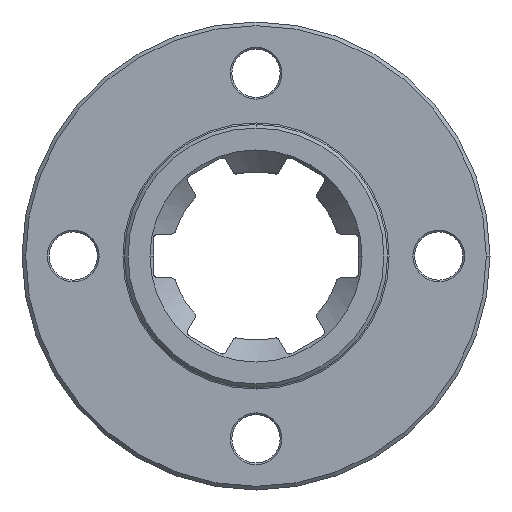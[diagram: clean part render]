
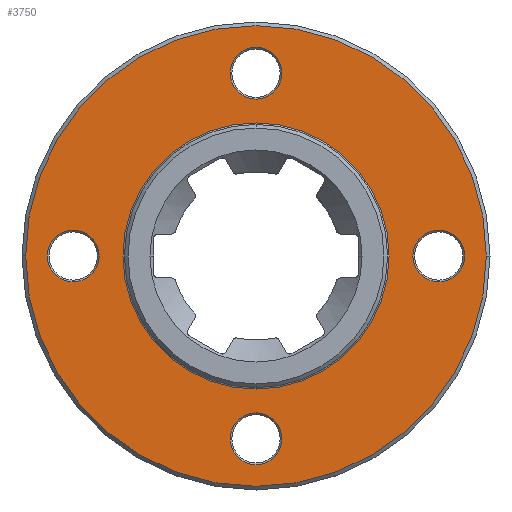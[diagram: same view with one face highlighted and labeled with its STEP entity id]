
A CAD part, left-side view. The second image highlights one B-rep face of the part: STEP entity #3750.
In plain terms, the highlighted planar face has unit normal (-1, 0, 0).
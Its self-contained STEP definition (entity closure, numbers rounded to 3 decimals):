
#1843=CARTESIAN_POINT('',(0.,0.,
0.));
#1844=DIRECTION('',(-1.,0.,0.));
#1845=DIRECTION('',(0.,-1.,0.));
#1846=AXIS2_PLACEMENT_3D('',#1843,#1844,#1845);
#1851=CARTESIAN_POINT('',(0.,0.,
0.));
#1852=DIRECTION('',(-1.,0.,0.));
#1853=DIRECTION('',(0.,1.,0.));
#1854=AXIS2_PLACEMENT_3D('',#1851,#1852,#1853);
#1859=CARTESIAN_POINT('',(0.,0.,0.));
#1860=DIRECTION('',(1.,0.,0.));
#1861=DIRECTION('',(0.,0.,1.));
#1862=AXIS2_PLACEMENT_3D('',#1859,#1860,#1861);
#1867=CARTESIAN_POINT('',(0.,0.,0.));
#1868=DIRECTION('',(1.,0.,0.));
#1869=DIRECTION('',(0.,0.,-1.));
#1870=AXIS2_PLACEMENT_3D('',#1867,#1868,#1869);
#1875=CARTESIAN_POINT('',(0.,0.,-25.));
#1876=DIRECTION('',(1.,0.,0.));
#1877=DIRECTION('',(0.,1.,0.));
#1878=AXIS2_PLACEMENT_3D('',#1875,#1876,#1877);
#1883=CARTESIAN_POINT('',(0.,0.,-25.));
#1884=DIRECTION('',(1.,0.,0.));
#1885=DIRECTION('',(0.,-1.,0.));
#1886=AXIS2_PLACEMENT_3D('',#1883,#1884,#1885);
#1891=CARTESIAN_POINT('',(0.,25.,0.));
#1892=DIRECTION('',(1.,0.,0.));
#1893=DIRECTION('',(0.,1.,0.));
#1894=AXIS2_PLACEMENT_3D('',#1891,#1892,#1893);
#1899=CARTESIAN_POINT('',(0.,25.,0.));
#1900=DIRECTION('',(1.,0.,0.));
#1901=DIRECTION('',(0.,-1.,0.));
#1902=AXIS2_PLACEMENT_3D('',#1899,#1900,#1901);
#1907=CARTESIAN_POINT('',(0.,0.,25.));
#1908=DIRECTION('',(1.,0.,0.));
#1909=DIRECTION('',(0.,1.,0.));
#1910=AXIS2_PLACEMENT_3D('',#1907,#1908,#1909);
#1915=CARTESIAN_POINT('',(0.,0.,25.));
#1916=DIRECTION('',(1.,0.,0.));
#1917=DIRECTION('',(0.,-1.,0.));
#1918=AXIS2_PLACEMENT_3D('',#1915,#1916,#1917);
#1923=CARTESIAN_POINT('',(0.,-25.,0.));
#1924=DIRECTION('',(1.,0.,0.));
#1925=DIRECTION('',(0.,1.,0.));
#1926=AXIS2_PLACEMENT_3D('',#1923,#1924,#1925);
#1931=CARTESIAN_POINT('',(0.,-25.,0.));
#1932=DIRECTION('',(1.,0.,0.));
#1933=DIRECTION('',(0.,-1.,0.));
#1934=AXIS2_PLACEMENT_3D('',#1931,#1932,#1933);
#2377=CARTESIAN_POINT('',(0.,-31.5,
0.));
#2378=CARTESIAN_POINT('',(0.,31.5,
0.));
#2379=VERTEX_POINT('',#2377);
#2380=VERTEX_POINT('',#2378);
#2413=CARTESIAN_POINT('',(0.,0.,18.2));
#2414=CARTESIAN_POINT('',(0.,0.,-18.2));
#2415=VERTEX_POINT('',#2413);
#2416=VERTEX_POINT('',#2414);
#2425=CARTESIAN_POINT('',(0.,3.55,-25.));
#2426=CARTESIAN_POINT('',(0.,-3.55,-25.));
#2427=VERTEX_POINT('',#2425);
#2428=VERTEX_POINT('',#2426);
#2441=CARTESIAN_POINT('',(0.,28.55,0.));
#2442=CARTESIAN_POINT('',(0.,21.45,0.));
#2443=VERTEX_POINT('',#2441);
#2444=VERTEX_POINT('',#2442);
#2457=CARTESIAN_POINT('',(0.,3.55,25.));
#2458=CARTESIAN_POINT('',(0.,-3.55,25.));
#2459=VERTEX_POINT('',#2457);
#2460=VERTEX_POINT('',#2458);
#2473=CARTESIAN_POINT('',(0.,-21.45,0.));
#2474=CARTESIAN_POINT('',(0.,-28.55,0.));
#2475=VERTEX_POINT('',#2473);
#2476=VERTEX_POINT('',#2474);
#3710=CARTESIAN_POINT('',(0.,0.,0.));
#3711=DIRECTION('',(-1.,0.,0.));
#3712=DIRECTION('',(0.,1.,0.));
#3713=AXIS2_PLACEMENT_3D('',#3710,#3711,#3712);
#3714=PLANE('',#3713);
#3716=ORIENTED_EDGE('',*,*,#3715,.F.);
#3717=ORIENTED_EDGE('',*,*,#3700,.F.);
#3718=EDGE_LOOP('',(#3716,#3717));
#3719=FACE_OUTER_BOUND('',#3718,.F.);
#3721=ORIENTED_EDGE('',*,*,#3720,.F.);
#3723=ORIENTED_EDGE('',*,*,#3722,.F.);
#3724=EDGE_LOOP('',(#3721,#3723));
#3725=FACE_BOUND('',#3724,.F.);
#3727=ORIENTED_EDGE('',*,*,#3726,.F.);
#3729=ORIENTED_EDGE('',*,*,#3728,.F.);
#3730=EDGE_LOOP('',(#3727,#3729));
#3731=FACE_BOUND('',#3730,.F.);
#3733=ORIENTED_EDGE('',*,*,#3732,.F.);
#3735=ORIENTED_EDGE('',*,*,#3734,.F.);
#3736=EDGE_LOOP('',(#3733,#3735));
#3737=FACE_BOUND('',#3736,.F.);
#3739=ORIENTED_EDGE('',*,*,#3738,.F.);
#3741=ORIENTED_EDGE('',*,*,#3740,.F.);
#3742=EDGE_LOOP('',(#3739,#3741));
#3743=FACE_BOUND('',#3742,.F.);
#3745=ORIENTED_EDGE('',*,*,#3744,.F.);
#3747=ORIENTED_EDGE('',*,*,#3746,.F.);
#3748=EDGE_LOOP('',(#3745,#3747));
#3749=FACE_BOUND('',#3748,.F.);
#3750=ADVANCED_FACE('',(#3719,#3725,#3731,#3737,#3743,#3749),#3714,.T.);
#1847=CIRCLE('',#1846,31.5);
#1855=CIRCLE('',#1854,31.5);
#1863=CIRCLE('',#1862,18.2);
#1871=CIRCLE('',#1870,18.2);
#1879=CIRCLE('',#1878,3.55);
#1887=CIRCLE('',#1886,3.55);
#1895=CIRCLE('',#1894,3.55);
#1903=CIRCLE('',#1902,3.55);
#1911=CIRCLE('',#1910,3.55);
#1919=CIRCLE('',#1918,3.55);
#1927=CIRCLE('',#1926,3.55);
#1935=CIRCLE('',#1934,3.55);
#3700=EDGE_CURVE('',#2380,#2379,#1855,.T.);
#3715=EDGE_CURVE('',#2379,#2380,#1847,.T.);
#3720=EDGE_CURVE('',#2415,#2416,#1863,.T.);
#3722=EDGE_CURVE('',#2416,#2415,#1871,.T.);
#3726=EDGE_CURVE('',#2427,#2428,#1879,.T.);
#3728=EDGE_CURVE('',#2428,#2427,#1887,.T.);
#3732=EDGE_CURVE('',#2443,#2444,#1895,.T.);
#3734=EDGE_CURVE('',#2444,#2443,#1903,.T.);
#3738=EDGE_CURVE('',#2459,#2460,#1911,.T.);
#3740=EDGE_CURVE('',#2460,#2459,#1919,.T.);
#3744=EDGE_CURVE('',#2475,#2476,#1927,.T.);
#3746=EDGE_CURVE('',#2476,#2475,#1935,.T.);
